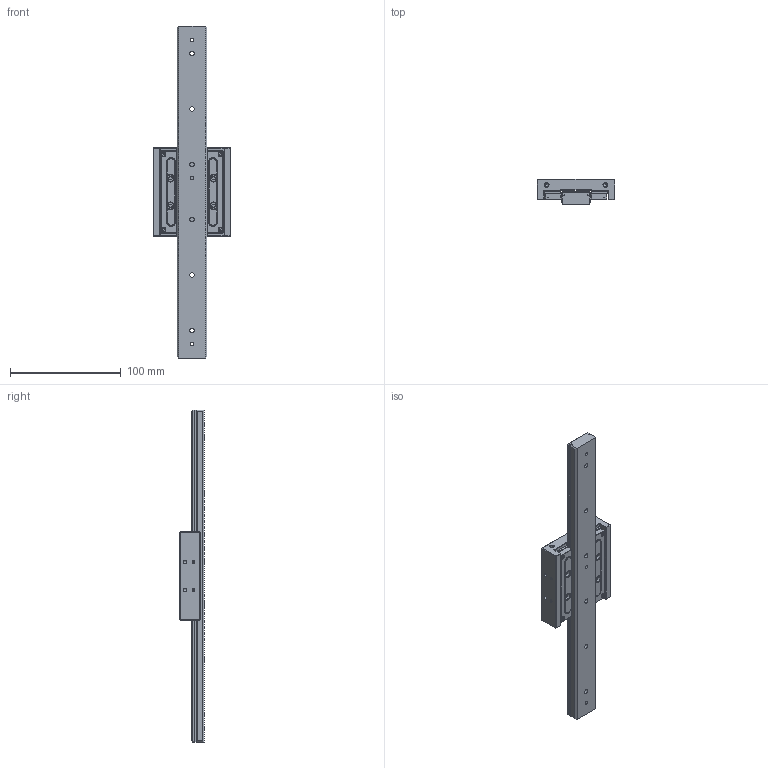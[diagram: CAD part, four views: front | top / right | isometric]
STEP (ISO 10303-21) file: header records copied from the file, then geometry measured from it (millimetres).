
FILE_DESCRIPTION(/* description */ ('TAVOLA TRKD03 L=300'),/* implementation_level */ '2;1');
FILE_NAME(/* name */ 'TRKD030300-00.stp',/* time_stamp */ '2024-01-24T15:35:35+01:00',/* author */ ('Rosa sistemi'),/* organization */ (''),/* preprocessor_version */ 'ST-DEVELOPER v20',/* originating_system */ 'Autodesk Inventor 2024',/* authorisation */ '');
FILE_SCHEMA (('AUTOMOTIVE_DESIGN { 1 0 10303 214 3 1 1 }'));
Length unit declared in the file: millimetre
Products named in the file (2): TRKD030300-00; TRKD030300-00_1
Assembly tree (1 placements, depth 2):
  TRKD030300-00
    TRKD030300-00_1
Bounding box: 70 x 22.5 x 300 mm (x, y, z)
Volume: 164710.9 mm3; surface area: 52863.3 mm2
Topology: 40 solids, 40 shells, 661 faces, 1712 edges, 1087 vertices
Faces by surface type: plane 401, cylinder 83, cone 75, sphere 50, bspline 36, torus 16
Full cylindrical faces by diameter (mm): 1.5 x2, 1.889 x1, 2.459 x2, 3 x5, 3.242 x16, 4 x7, 4.134 x6, 5.195 x1, 6 x4, 7 x4, 7.5 x10
Entity records: 20695 total; most frequent: CARTESIAN_POINT 4323, ORIENTED_EDGE 3200, DIRECTION 3108, EDGE_CURVE 1600, VERTEX_POINT 1087, AXIS2_PLACEMENT_3D 1042, LINE 1024, VECTOR 1024
